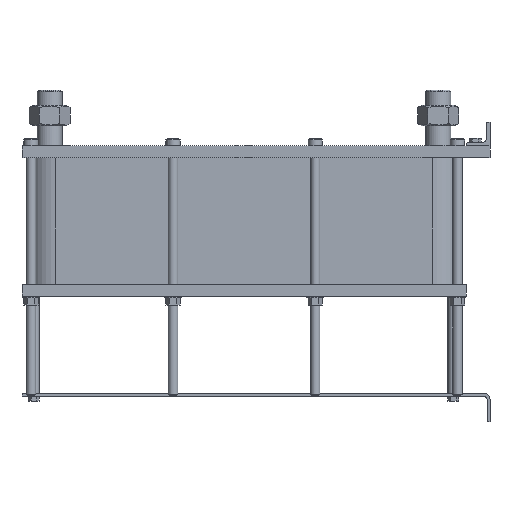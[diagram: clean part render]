
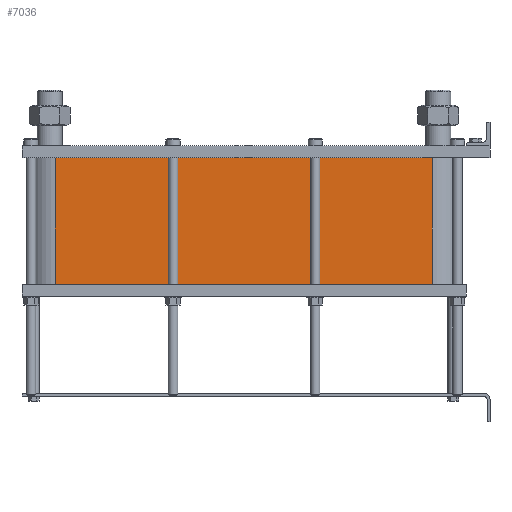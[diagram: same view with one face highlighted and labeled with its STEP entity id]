
A CAD part, left-side view. The second image highlights one B-rep face of the part: STEP entity #7036.
In plain terms, the highlighted planar face has unit normal (-1, 0, 0).
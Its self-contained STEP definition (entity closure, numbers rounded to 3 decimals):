
#999=LINE('',#15640,#1553);
#1031=LINE('',#15723,#1585);
#1032=LINE('',#15726,#1586);
#1033=LINE('',#15727,#1587);
#1553=VECTOR('',#9658,10.);
#1585=VECTOR('',#9736,10.);
#1586=VECTOR('',#9741,10.);
#1587=VECTOR('',#9742,10.);
#2117=FACE_OUTER_BOUND('',#2671,.T.);
#2671=EDGE_LOOP('',(#6246,#6247,#6248,#6249));
#3527=VERTEX_POINT('',#15634);
#3529=VERTEX_POINT('',#15638);
#3556=VERTEX_POINT('',#15720);
#3557=VERTEX_POINT('',#15722);
#4425=EDGE_CURVE('',#3529,#3527,#999,.T.);
#4466=EDGE_CURVE('',#3557,#3556,#1031,.T.);
#4468=EDGE_CURVE('',#3527,#3556,#1032,.T.);
#4469=EDGE_CURVE('',#3557,#3529,#1033,.T.);
#6246=ORIENTED_EDGE('',*,*,#4468,.F.);
#6247=ORIENTED_EDGE('',*,*,#4425,.F.);
#6248=ORIENTED_EDGE('',*,*,#4469,.F.);
#6249=ORIENTED_EDGE('',*,*,#4466,.T.);
#6608=PLANE('',#7812);
#7036=ADVANCED_FACE('',(#2117),#6608,.T.);
#7812=AXIS2_PLACEMENT_3D('',#15725,#9739,#9740);
#9658=DIRECTION('',(0.,0.,-1.));
#9736=DIRECTION('',(0.,0.,-1.));
#9739=DIRECTION('center_axis',(-1.,0.,0.));
#9740=DIRECTION('ref_axis',(0.,1.,0.));
#9741=DIRECTION('',(0.,1.,0.));
#9742=DIRECTION('',(0.,-1.,0.));
#15634=CARTESIAN_POINT('',(-72.,97.5,-213.9));
#15638=CARTESIAN_POINT('',(-72.,97.5,0.));
#15640=CARTESIAN_POINT('',(-72.,97.5,0.));
#15720=CARTESIAN_POINT('',(-72.,733.5,-213.9));
#15722=CARTESIAN_POINT('',(-72.,733.5,0.));
#15723=CARTESIAN_POINT('',(-72.,733.5,0.));
#15725=CARTESIAN_POINT('Origin',(-72.,97.5,0.));
#15726=CARTESIAN_POINT('',(-72.,256.5,-213.9));
#15727=CARTESIAN_POINT('',(-72.,733.5,0.));
